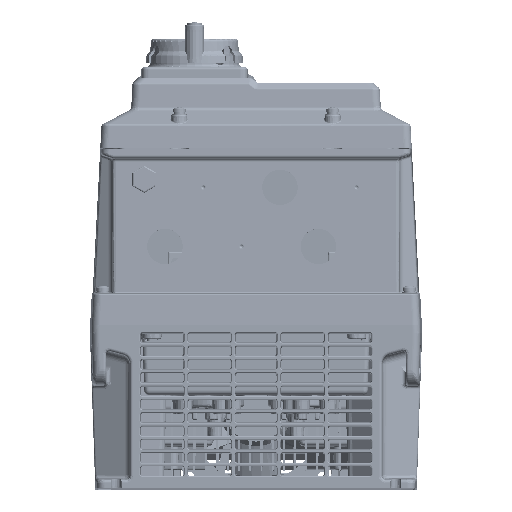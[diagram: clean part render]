
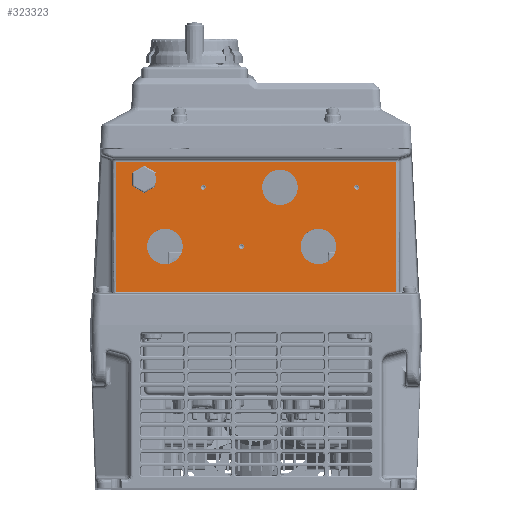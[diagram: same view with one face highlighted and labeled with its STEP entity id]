
A CAD part, top view. The second image highlights one B-rep face of the part: STEP entity #323323.
In plain terms, the highlighted planar face has unit normal (0, 0.018, 1).
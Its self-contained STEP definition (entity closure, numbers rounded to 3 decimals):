
#299426=CARTESIAN_POINT('',(-33.,82.923,-9.895));
#299427=DIRECTION('',(0.,-0.017,-1.));
#299428=DIRECTION('',(-1.,0.,0.));
#299429=AXIS2_PLACEMENT_3D('',#299426,#299427,#299428);
#299431=CARTESIAN_POINT('',(-33.,82.923,-9.895));
#299432=DIRECTION('',(0.,-0.017,-1.));
#299433=DIRECTION('',(1.,0.,0.));
#299434=AXIS2_PLACEMENT_3D('',#299431,#299432,#299433);
#299436=CARTESIAN_POINT('',(-9.,45.935,-9.249));
#299437=DIRECTION('',(0.,-0.017,-1.));
#299438=DIRECTION('',(-1.,0.,0.));
#299439=AXIS2_PLACEMENT_3D('',#299436,#299437,#299438);
#299441=CARTESIAN_POINT('',(-9.,45.935,-9.249));
#299442=DIRECTION('',(0.,-0.017,-1.));
#299443=DIRECTION('',(1.,0.,0.));
#299444=AXIS2_PLACEMENT_3D('',#299441,#299442,#299443);
#299446=CARTESIAN_POINT('',(63.,82.923,-9.895));
#299447=DIRECTION('',(0.,-0.017,-1.));
#299448=DIRECTION('',(-1.,0.,0.));
#299449=AXIS2_PLACEMENT_3D('',#299446,#299447,#299448);
#299451=CARTESIAN_POINT('',(63.,82.923,-9.895));
#299452=DIRECTION('',(0.,-0.017,-1.));
#299453=DIRECTION('',(1.,0.,0.));
#299454=AXIS2_PLACEMENT_3D('',#299451,#299452,#299453);
#299456=DIRECTION('',(-1.,0.,0.));
#299457=VECTOR('',#299456,175.568);
#299458=CARTESIAN_POINT('',(87.784,17.507,
-8.753));
#299459=LINE('',#299458,#299457);
#299460=DIRECTION('',(-0.001,1.,-0.017));
#299461=VECTOR('',#299460,6.187);
#299462=CARTESIAN_POINT('',(-87.784,17.507,
-8.753));
#299463=LINE('',#299462,#299461);
#299464=CARTESIAN_POINT('',(-87.788,23.693,
-8.861));
#299465=CARTESIAN_POINT('',(-87.793,33.05,
-9.024));
#299466=CARTESIAN_POINT('',(-87.814,51.107,
-9.339));
#299467=CARTESIAN_POINT('',(-87.869,76.266,
-9.779));
#299468=CARTESIAN_POINT('',(-87.917,91.669,
-10.047));
#299469=CARTESIAN_POINT('',(-87.943,99.035,
-10.176));
#299471=DIRECTION('',(-1.,0.,0.));
#299472=VECTOR('',#299471,175.887);
#299473=CARTESIAN_POINT('',(87.943,99.035,
-10.176));
#299474=LINE('',#299473,#299472);
#299475=CARTESIAN_POINT('',(87.943,99.035,
-10.176));
#299476=CARTESIAN_POINT('',(87.916,91.266,
-10.04));
#299477=CARTESIAN_POINT('',(87.867,75.331,
-9.762));
#299478=CARTESIAN_POINT('',(87.814,50.582,
-9.33));
#299479=CARTESIAN_POINT('',(87.793,32.827,
-9.02));
#299480=CARTESIAN_POINT('',(87.788,23.693,
-8.861));
#299482=DIRECTION('',(-0.001,-1.,0.017));
#299483=VECTOR('',#299482,6.187);
#299484=CARTESIAN_POINT('',(87.788,23.693,
-8.861));
#299485=LINE('',#299484,#299483);
#299486=CARTESIAN_POINT('',(-57.,45.935,-9.249));
#299487=DIRECTION('',(0.,0.017,1.));
#299488=DIRECTION('',(1.,0.,0.));
#299489=AXIS2_PLACEMENT_3D('',#299486,#299487,#299488);
#299491=CARTESIAN_POINT('',(-57.,45.935,-9.249));
#299492=DIRECTION('',(0.,0.017,1.));
#299493=DIRECTION('',(-1.,0.,0.));
#299494=AXIS2_PLACEMENT_3D('',#299491,#299492,#299493);
#299496=CARTESIAN_POINT('',(39.,45.935,-9.249));
#299497=DIRECTION('',(0.,0.017,1.));
#299498=DIRECTION('',(1.,0.,0.));
#299499=AXIS2_PLACEMENT_3D('',#299496,#299497,#299498);
#299501=CARTESIAN_POINT('',(39.,45.935,-9.249));
#299502=DIRECTION('',(0.,0.017,1.));
#299503=DIRECTION('',(-1.,0.,0.));
#299504=AXIS2_PLACEMENT_3D('',#299501,#299502,#299503);
#299506=CARTESIAN_POINT('',(15.,82.923,-9.895));
#299507=DIRECTION('',(0.,0.017,1.));
#299508=DIRECTION('',(1.,0.,0.));
#299509=AXIS2_PLACEMENT_3D('',#299506,#299507,#299508);
#299511=CARTESIAN_POINT('',(15.,82.923,-9.895));
#299512=DIRECTION('',(0.,0.017,1.));
#299513=DIRECTION('',(-1.,0.,0.));
#299514=AXIS2_PLACEMENT_3D('',#299511,#299512,#299513);
#299516=CARTESIAN_POINT('',(-70.,87.922,-9.982));
#299517=DIRECTION('',(0.,0.017,1.));
#299518=DIRECTION('',(1.,0.,0.));
#299519=AXIS2_PLACEMENT_3D('',#299516,#299517,#299518);
#299521=CARTESIAN_POINT('',(-70.,87.922,-9.982));
#299522=DIRECTION('',(0.,0.017,1.));
#299523=DIRECTION('',(-1.,0.,0.));
#299524=AXIS2_PLACEMENT_3D('',#299521,#299522,#299523);
#300369=CARTESIAN_POINT('',(87.943,99.035,
-10.176));
#307928=CARTESIAN_POINT('',(87.784,17.507,
-8.753));
#307929=CARTESIAN_POINT('',(-87.784,17.507,
-8.753));
#307930=VERTEX_POINT('',#307928);
#307931=VERTEX_POINT('',#307929);
#307939=CARTESIAN_POINT('',(87.788,23.693,
-8.861));
#307941=VERTEX_POINT('',#307939);
#307943=CARTESIAN_POINT('',(-87.788,23.693,
-8.861));
#307945=VERTEX_POINT('',#307943);
#307954=VERTEX_POINT('',#300369);
#307957=CARTESIAN_POINT('',(-87.943,99.035,
-10.176));
#307958=VERTEX_POINT('',#307957);
#307988=CARTESIAN_POINT('',(-34.507,82.923,
-9.895));
#307989=CARTESIAN_POINT('',(-31.493,82.923,
-9.895));
#307990=VERTEX_POINT('',#307988);
#307991=VERTEX_POINT('',#307989);
#307996=CARTESIAN_POINT('',(-10.507,45.935,
-9.249));
#307997=CARTESIAN_POINT('',(-7.493,45.935,
-9.249));
#307998=VERTEX_POINT('',#307996);
#307999=VERTEX_POINT('',#307997);
#308004=CARTESIAN_POINT('',(61.493,82.923,
-9.895));
#308005=CARTESIAN_POINT('',(64.507,82.923,
-9.895));
#308006=VERTEX_POINT('',#308004);
#308007=VERTEX_POINT('',#308005);
#314439=CARTESIAN_POINT('',(-45.9,45.935,-9.249));
#314440=CARTESIAN_POINT('',(-68.1,45.935,-9.249));
#314441=VERTEX_POINT('',#314439);
#314442=VERTEX_POINT('',#314440);
#314443=CARTESIAN_POINT('',(50.1,45.935,-9.249));
#314444=CARTESIAN_POINT('',(27.9,45.935,-9.249));
#314445=VERTEX_POINT('',#314443);
#314446=VERTEX_POINT('',#314444);
#314447=CARTESIAN_POINT('',(26.1,82.923,-9.895));
#314448=CARTESIAN_POINT('',(3.9,82.923,-9.895));
#314449=VERTEX_POINT('',#314447);
#314450=VERTEX_POINT('',#314448);
#314451=CARTESIAN_POINT('',(-64.,87.922,-9.982));
#314452=CARTESIAN_POINT('',(-76.,87.922,-9.982));
#314453=VERTEX_POINT('',#314451);
#314454=VERTEX_POINT('',#314452);
#323264=CARTESIAN_POINT('',(-106.01,3.035,
-8.5));
#323265=DIRECTION('',(0.,-0.017,-1.));
#323266=DIRECTION('',(1.,0.,0.));
#323267=AXIS2_PLACEMENT_3D('',#323264,#323265,#323266);
#323268=PLANE('',#323267);
#323270=ORIENTED_EDGE('',*,*,#323269,.T.);
#323272=ORIENTED_EDGE('',*,*,#323271,.T.);
#323274=ORIENTED_EDGE('',*,*,#323273,.T.);
#323276=ORIENTED_EDGE('',*,*,#323275,.F.);
#323278=ORIENTED_EDGE('',*,*,#323277,.T.);
#323280=ORIENTED_EDGE('',*,*,#323279,.T.);
#323281=EDGE_LOOP('',(#323270,#323272,#323274,#323276,#323278,#323280));
#323282=FACE_OUTER_BOUND('',#323281,.F.);
#323284=ORIENTED_EDGE('',*,*,#323283,.F.);
#323286=ORIENTED_EDGE('',*,*,#323285,.F.);
#323287=EDGE_LOOP('',(#323284,#323286));
#323288=FACE_BOUND('',#323287,.F.);
#323290=ORIENTED_EDGE('',*,*,#323289,.F.);
#323292=ORIENTED_EDGE('',*,*,#323291,.F.);
#323293=EDGE_LOOP('',(#323290,#323292));
#323294=FACE_BOUND('',#323293,.F.);
#323296=ORIENTED_EDGE('',*,*,#323295,.F.);
#323298=ORIENTED_EDGE('',*,*,#323297,.F.);
#323299=EDGE_LOOP('',(#323296,#323298));
#323300=FACE_BOUND('',#323299,.F.);
#323301=ORIENTED_EDGE('',*,*,#323244,.T.);
#323302=ORIENTED_EDGE('',*,*,#323258,.T.);
#323303=EDGE_LOOP('',(#323301,#323302));
#323304=FACE_BOUND('',#323303,.F.);
#323306=ORIENTED_EDGE('',*,*,#323305,.T.);
#323308=ORIENTED_EDGE('',*,*,#323307,.T.);
#323309=EDGE_LOOP('',(#323306,#323308));
#323310=FACE_BOUND('',#323309,.F.);
#323312=ORIENTED_EDGE('',*,*,#323311,.T.);
#323314=ORIENTED_EDGE('',*,*,#323313,.T.);
#323315=EDGE_LOOP('',(#323312,#323314));
#323316=FACE_BOUND('',#323315,.F.);
#323318=ORIENTED_EDGE('',*,*,#323317,.T.);
#323320=ORIENTED_EDGE('',*,*,#323319,.T.);
#323321=EDGE_LOOP('',(#323318,#323320));
#323322=FACE_BOUND('',#323321,.F.);
#323323=ADVANCED_FACE('',(#323282,#323288,#323294,#323300,#323304,#323310,
#323316,#323322),#323268,.F.);
#299430=CIRCLE('',#299429,1.507);
#299435=CIRCLE('',#299434,1.507);
#299440=CIRCLE('',#299439,1.507);
#299445=CIRCLE('',#299444,1.507);
#299450=CIRCLE('',#299449,1.507);
#299455=CIRCLE('',#299454,1.507);
#299470=B_SPLINE_CURVE_WITH_KNOTS('',3,(#299464,#299465,#299466,#299467,#299468,
#299469),.UNSPECIFIED.,.F.,.F.,(4,1,1,4),(0.,0.333,
0.667,1.),.UNSPECIFIED.);
#299481=B_SPLINE_CURVE_WITH_KNOTS('',3,(#299475,#299476,#299477,#299478,#299479,
#299480),.UNSPECIFIED.,.F.,.F.,(4,1,1,4),(0.,0.333,
0.667,1.),.UNSPECIFIED.);
#299490=CIRCLE('',#299489,11.1);
#299495=CIRCLE('',#299494,11.1);
#299500=CIRCLE('',#299499,11.1);
#299505=CIRCLE('',#299504,11.1);
#299510=CIRCLE('',#299509,11.1);
#299515=CIRCLE('',#299514,11.1);
#299520=CIRCLE('',#299519,6.);
#299525=CIRCLE('',#299524,6.);
#323244=EDGE_CURVE('',#314441,#314442,#299490,.T.);
#323258=EDGE_CURVE('',#314442,#314441,#299495,.T.);
#323269=EDGE_CURVE('',#307930,#307931,#299459,.T.);
#323271=EDGE_CURVE('',#307931,#307945,#299463,.T.);
#323273=EDGE_CURVE('',#307945,#307958,#299470,.T.);
#323275=EDGE_CURVE('',#307954,#307958,#299474,.T.);
#323277=EDGE_CURVE('',#307954,#307941,#299481,.T.);
#323279=EDGE_CURVE('',#307941,#307930,#299485,.T.);
#323283=EDGE_CURVE('',#307998,#307999,#299440,.T.);
#323285=EDGE_CURVE('',#307999,#307998,#299445,.T.);
#323289=EDGE_CURVE('',#308006,#308007,#299450,.T.);
#323291=EDGE_CURVE('',#308007,#308006,#299455,.T.);
#323295=EDGE_CURVE('',#307990,#307991,#299430,.T.);
#323297=EDGE_CURVE('',#307991,#307990,#299435,.T.);
#323305=EDGE_CURVE('',#314445,#314446,#299500,.T.);
#323307=EDGE_CURVE('',#314446,#314445,#299505,.T.);
#323311=EDGE_CURVE('',#314449,#314450,#299510,.T.);
#323313=EDGE_CURVE('',#314450,#314449,#299515,.T.);
#323317=EDGE_CURVE('',#314453,#314454,#299520,.T.);
#323319=EDGE_CURVE('',#314454,#314453,#299525,.T.);
